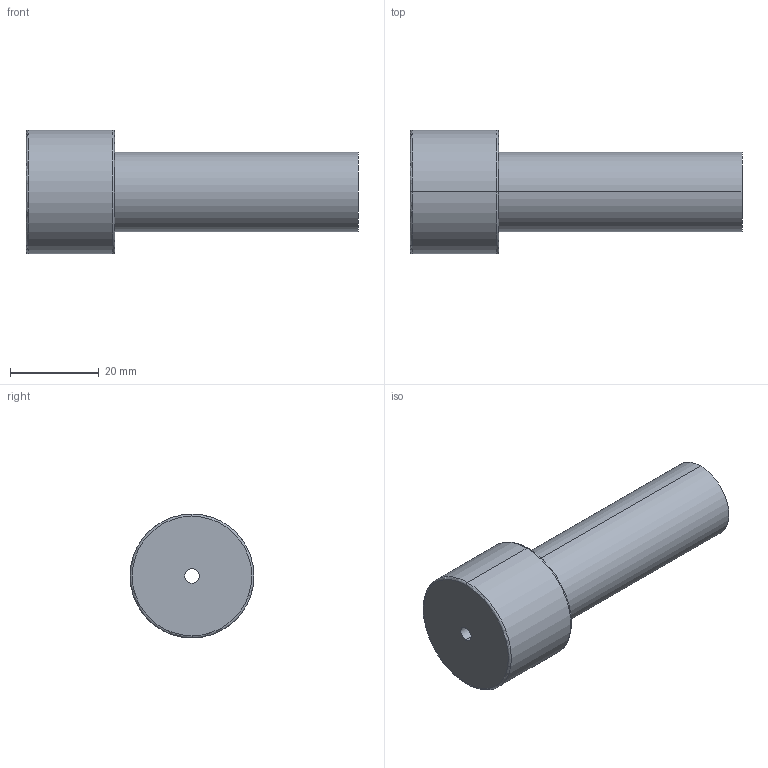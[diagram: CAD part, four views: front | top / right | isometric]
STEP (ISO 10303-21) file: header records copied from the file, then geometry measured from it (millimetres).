
FILE_DESCRIPTION(('CATIA V5 STEP Exchange'),'2;1');
FILE_NAME('C:\Users\Utente\Desktop\IO LAVORO\3D X SITO CF\X SITO\PLASTICA\3D files 367\367-18X75.stp','2021-03-24T15:46:29+00:00',('none'),('none'),'CATIA Version 5 Release 20 GA (IN-10)','CATIA V5 STEP AP203','none');
FILE_SCHEMA(('CONFIG_CONTROL_DESIGN'));
Length unit declared in the file: millimetre
Products named in the file (1): 367-18X75
Bounding box: 75 x 28 x 28 mm (x, y, z)
Volume: 24593.5 mm3; surface area: 7254.1 mm2
Topology: 1 solids, 1 shells, 13 faces, 42 edges, 32 vertices
Faces by surface type: torus 4, cylinder 4, plane 3, cone 2
Entity records: 608 total; most frequent: CARTESIAN_POINT 194, ORIENTED_EDGE 84, DIRECTION 60, AXIS2_PLACEMENT_3D 42, EDGE_CURVE 42, VERTEX_POINT 32, CIRCLE 28, EDGE_LOOP 16
